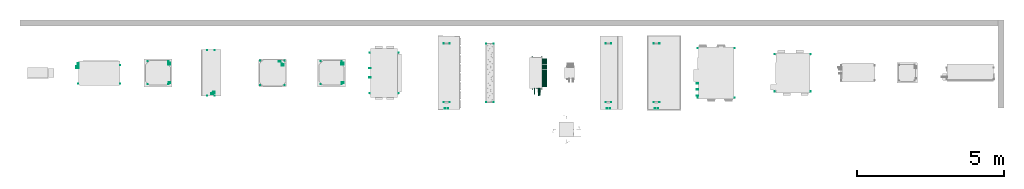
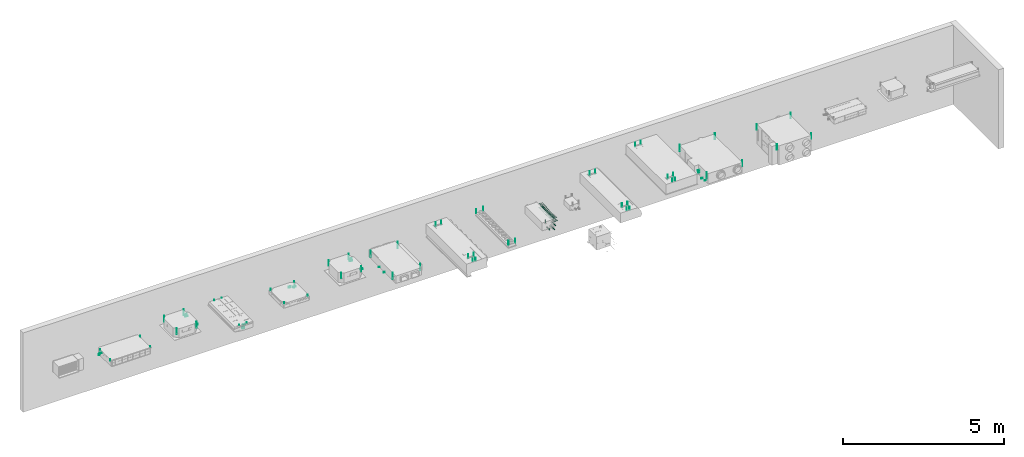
# One storey, part 2 of 5: 12 energy conversion devices, 1 flow fitting.
"""IFC2X3 building model written with IfcOpenShell, lengths in millimetres."""

from ifc_helpers import new_model, entity, si_unit, converted_unit, derived_unit, direction, frame, frame_2d, origin, origin_2d_with_axis, place, context, subcontext, project, spatial, circle, extrude, source, transform, mapped, material, type_object, type_shapes, element, save


model = new_model("IFC2X3")

# Units and contexts
model_context = context("Model", 3, precision=0.01, world=origin(), true_north=direction((6.12303176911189e-17, 1.0)))
body_context = subcontext(model_context, "Body", "Model", "MODEL_VIEW")
ifc_project = project(units=[si_unit("LENGTHUNIT", "METRE", prefix="MILLI"), si_unit("AREAUNIT", "SQUARE_METRE"), si_unit("VOLUMEUNIT", "CUBIC_METRE"), converted_unit("PLANEANGLEUNIT", "DEGREE", entity("IfcRatioMeasure", 0.0174532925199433), si_unit("PLANEANGLEUNIT", "RADIAN"), dimensions=[0, 0, 0, 0, 0, 0, 0]), si_unit("MASSUNIT", "GRAM", prefix="KILO"), derived_unit("MASSDENSITYUNIT", [(si_unit("MASSUNIT", "GRAM", prefix="KILO"), 1), (si_unit("LENGTHUNIT", "METRE"), -3)]), si_unit("TIMEUNIT", "SECOND"), si_unit("FREQUENCYUNIT", "HERTZ"), si_unit("THERMODYNAMICTEMPERATUREUNIT", "DEGREE_CELSIUS"), derived_unit("THERMALTRANSMITTANCEUNIT", [(si_unit("MASSUNIT", "GRAM", prefix="KILO"), 1), (si_unit("THERMODYNAMICTEMPERATUREUNIT", "KELVIN"), -1), (si_unit("TIMEUNIT", "SECOND"), -3)]), derived_unit("VOLUMETRICFLOWRATEUNIT", [(si_unit("LENGTHUNIT", "METRE"), 3), (si_unit("TIMEUNIT", "SECOND"), -1)]), si_unit("ELECTRICCURRENTUNIT", "AMPERE"), si_unit("ELECTRICVOLTAGEUNIT", "VOLT"), si_unit("POWERUNIT", "WATT"), si_unit("FORCEUNIT", "NEWTON", prefix="KILO"), si_unit("ILLUMINANCEUNIT", "LUX"), si_unit("LUMINOUSFLUXUNIT", "LUMEN"), si_unit("LUMINOUSINTENSITYUNIT", "CANDELA"), derived_unit("USERDEFINED", [(si_unit("MASSUNIT", "GRAM", prefix="KILO"), -1), (si_unit("LENGTHUNIT", "METRE"), -2), (si_unit("TIMEUNIT", "SECOND"), 3), (si_unit("LUMINOUSFLUXUNIT", "LUMEN"), 1)]), derived_unit("LINEARVELOCITYUNIT", [(si_unit("LENGTHUNIT", "METRE"), 1), (si_unit("TIMEUNIT", "SECOND"), -1)]), si_unit("PRESSUREUNIT", "PASCAL"), derived_unit("USERDEFINED", [(si_unit("LENGTHUNIT", "METRE"), -2), (si_unit("MASSUNIT", "GRAM", prefix="KILO"), 1), (si_unit("TIMEUNIT", "SECOND"), -2)])], contexts=[model_context])

# Site, building, storey
site_placement = place(None, origin())
site = spatial("IfcSite", under=ifc_project, at=site_placement, Name="Default", CompositionType="ELEMENT")
building_placement = place(site_placement, origin())
building = spatial("IfcBuilding", under=site, at=building_placement, CompositionType="ELEMENT")
storey_placement = place(building_placement, origin())
storey = spatial("IfcBuildingStorey", under=building, at=storey_placement, Name="Level 1", CompositionType="ELEMENT", Elevation=0.0)

# Energy conversion devices
ifc_material_1 = material(Name="RSen_x_rgb 188 188 190 T00 gray_gen")
unitary_equipment_type_1 = type_object("IfcUnitaryEquipmentType", Name="cyvl250dk250csc - large - grey_daikin_lxwxh 2500x1105x370 mm", PredefinedType="AIRHANDLER", material=ifc_material_1)
shared_shape_1 = source(origin(), body_context, "Body", "SweptSolid", [
    extrude(circle(Radius=4.76, at=origin_2d_with_axis()), frame((2213.09789016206, 155.595273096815, 52.0174794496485), z_axis=(1.74532925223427e-05, 0.0, 1.0), x_axis=(0.0, -1.0, 0.0)), (0.0, 0.0, 1.0), 97.999999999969),
    extrude(circle(Radius=11.0, at=origin_2d_with_axis()), frame((2213.09789002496, 55.5952730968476, 52.0174794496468), z_axis=(1.74532925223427e-05, 0.0, 1.0), x_axis=(0.0, -1.0, 0.0)), (0.0, 0.0, 1.0), 97.999999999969),
    extrude(circle(Radius=1.5, at=origin_2d_with_axis()), frame((2003.09527193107, 200.095273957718, 2.61799451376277e-05)), (0.0, 0.0, 1.0), 150.0),
    extrude(circle(Radius=1.5, at=origin_2d_with_axis()), frame((3.09527223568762, 200.09527223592, 0.0349327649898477)), (0.0, 0.0, 1.0), 150.0),
    extrude(circle(Radius=1.5, at=origin_2d_with_axis()), frame((2003.09527210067, 3.095273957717, 2.61799389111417e-05)), (0.0, 0.0, 1.0), 150.0),
    extrude(circle(Radius=1.5, at=origin_2d_with_axis()), frame((3.09527240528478, 3.0952722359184, 0.0349327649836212)), (0.0, 0.0, 1.0), 150.0),
])
type_shapes(unitary_equipment_type_1, [shared_shape_1])
energy_conversion_device_1_placement = place(storey_placement, frame((13357.4383112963, -14716.9171137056, 3020.01747944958), z_axis=(0.0, 0.0, -1.0), x_axis=(0.0, -1.0, 0.0)))
element("IfcEnergyConversionDevice", 1, at=energy_conversion_device_1_placement, inside=storey, type_object=unitary_equipment_type_1, material=ifc_material_1, Name="RSen_57_ME_FB_air curtain_daikin:cyvl250dk250csc - large - grey_daikin_lxwxh 2500x1105x370 mm", ObjectType="cyvl250dk250csc - large - grey_daikin_lxwxh 2500x1105x370 mm", context=body_context, shape_type="MappedRepresentation", body=[
    mapped(shared_shape_1, transform((0.0, 0.0, 0.0), scale=1.0)),
])
unitary_equipment_type_2 = type_object("IfcUnitaryEquipmentType", Name="cyvl250dk250fsc - large - grey_daikin_lxwxh 2500x774x370 mm", PredefinedType="AIRHANDLER", material=ifc_material_1)
shared_shape_2 = source(origin(), body_context, "Body", "SweptSolid", [
    extrude(circle(Radius=4.76, at=origin_2d_with_axis()), frame((1210.0, 141.499999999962, 52.0), z_axis=(1.74532925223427e-05, 0.0, 1.0), x_axis=(0.0, -1.0, 0.0)), (0.0, 0.0, 1.0), 97.999999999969),
    extrude(circle(Radius=11.0, at=origin_2d_with_axis()), frame((1210.0, 41.4999999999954, 52.0), z_axis=(1.74532925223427e-05, 0.0, 1.0), x_axis=(0.0, -1.0, 0.0)), (0.0, 0.0, 1.0), 97.999999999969),
    extrude(circle(Radius=1.5, at=origin_2d_with_axis()), frame((999.997381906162, 187.000000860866, -0.0174532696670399)), (0.0, 0.0, 1.0), 150.0),
    extrude(circle(Radius=1.5, at=origin_2d_with_axis()), frame((-1000.00261778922, 186.999999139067, 0.017453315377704)), (0.0, 0.0, 1.0), 150.0),
    extrude(circle(Radius=1.5, at=frame_2d((-3.64156075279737e-24, -4.22994972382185e-15), x_axis=(1.0, 0.0))), frame((999.99738207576, -9.99999913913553, -0.0174532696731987)), (0.0, 0.0, 1.0), 150.0),
    extrude(circle(Radius=1.5, at=frame_2d((-3.64156075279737e-24, -4.22994972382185e-15), x_axis=(1.0, 0.0))), frame((-1000.00261761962, -10.0000008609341, 0.0174533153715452)), (0.0, 0.0, 1.0), 150.0),
])
type_shapes(unitary_equipment_type_2, [shared_shape_2])
energy_conversion_device_2_placement = place(storey_placement, frame((11708.8430381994, -15720.0150037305, 2500.0), z_axis=(0.0, 0.0, -1.0), x_axis=(0.0, -1.0, 0.0)))
element("IfcEnergyConversionDevice", 2, at=energy_conversion_device_2_placement, inside=storey, type_object=unitary_equipment_type_2, material=ifc_material_1, Name="RSen_57_ME_FB_air curtain_daikin:cyvl250dk250fsc - large - grey_daikin_lxwxh 2500x774x370 mm", ObjectType="cyvl250dk250fsc - large - grey_daikin_lxwxh 2500x774x370 mm", context=body_context, shape_type="MappedRepresentation", body=[
    mapped(shared_shape_2, transform((0.0, 0.0, 0.0), scale=1.0)),
])

# Flow fitting
ifc_material_2 = material(Name="RSen_x_rgb 255 255 255 T00 pure white_gen")
pipe_fitting_type = type_object("IfcPipeFittingType", Name="bs16q14av1b - multi branch selector_daikin_lxwxh 1060x430x298 mm", PredefinedType="JUNCTION", material=ifc_material_2)
shared_shape_3 = source(origin(), body_context, "Body", "SweptSolid", [
    extrude(circle(Radius=7.95, at=origin_2d_with_axis()), frame((460.0, -374.0, 268.0), z_axis=(0.0, 1.0, 0.0), x_axis=(0.0, 0.0, -1.0)), (0.0, 0.0, 1.0), 158.999999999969),
    extrude(circle(Radius=7.95, at=origin_2d_with_axis()), frame((400.0, -374.0, 268.0), z_axis=(0.0, 1.0, 0.0), x_axis=(0.0, 0.0, -1.0)), (0.0, 0.0, 1.0), 158.999999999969),
    extrude(circle(Radius=7.95, at=origin_2d_with_axis()), frame((340.0, -374.0, 268.0), z_axis=(0.0, 1.0, 0.0), x_axis=(0.0, 0.0, -1.0)), (0.0, 0.0, 1.0), 158.999999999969),
    extrude(circle(Radius=7.95, at=origin_2d_with_axis()), frame((280.0, -374.0, 268.0), z_axis=(0.0, 1.0, 0.0), x_axis=(0.0, 0.0, -1.0)), (0.0, 0.0, 1.0), 158.999999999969),
    extrude(circle(Radius=7.95, at=origin_2d_with_axis()), frame((220.0, -374.0, 268.0), z_axis=(0.0, 1.0, 0.0), x_axis=(0.0, 0.0, -1.0)), (0.0, 0.0, 1.0), 158.999999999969),
    extrude(circle(Radius=7.95, at=origin_2d_with_axis()), frame((160.0, -374.0, 268.0), z_axis=(0.0, 1.0, 0.0), x_axis=(0.0, 0.0, -1.0)), (0.0, 0.0, 1.0), 158.999999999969),
    extrude(circle(Radius=7.95, at=frame_2d((-2.63067735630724e-29, -1.69197988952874e-14), x_axis=(1.0, 0.0))), frame((100.0, -374.0, 268.0), z_axis=(0.0, 1.0, 0.0), x_axis=(0.0, 0.0, -1.0)), (0.0, 0.0, 1.0), 158.999999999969),
    extrude(circle(Radius=7.95, at=frame_2d((-2.63067735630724e-29, -1.69197988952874e-14), x_axis=(1.0, 0.0))), frame((40.0, -374.0, 268.0), z_axis=(0.0, 1.0, 0.0), x_axis=(0.0, 0.0, -1.0)), (0.0, 0.0, 1.0), 158.999999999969),
    extrude(circle(Radius=7.95, at=frame_2d((-1.97300801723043e-29, -1.26898491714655e-14), x_axis=(1.0, 0.0))), frame((-20.0, -374.0, 268.0), z_axis=(0.0, 1.0, 0.0), x_axis=(0.0, 0.0, -1.0)), (0.0, 0.0, 1.0), 158.999999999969),
    extrude(circle(Radius=7.95, at=frame_2d((-2.63067735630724e-29, -1.69197988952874e-14), x_axis=(1.0, 0.0))), frame((-80.0, -374.0, 268.0), z_axis=(0.0, 1.0, 0.0), x_axis=(0.0, 0.0, -1.0)), (0.0, 0.0, 1.0), 158.999999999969),
    extrude(circle(Radius=7.95, at=frame_2d((-2.63067735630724e-29, -1.69197988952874e-14), x_axis=(1.0, 0.0))), frame((-140.0, -374.0, 268.0), z_axis=(0.0, 1.0, 0.0), x_axis=(0.0, 0.0, -1.0)), (0.0, 0.0, 1.0), 158.999999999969),
    extrude(circle(Radius=7.95, at=origin_2d_with_axis()), frame((-200.0, -374.0, 268.0), z_axis=(0.0, 1.0, 0.0), x_axis=(0.0, 0.0, -1.0)), (0.0, 0.0, 1.0), 158.999999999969),
    extrude(circle(Radius=7.95, at=origin_2d_with_axis()), frame((-260.0, -374.0, 268.0), z_axis=(0.0, 1.0, 0.0), x_axis=(0.0, 0.0, -1.0)), (0.0, 0.0, 1.0), 158.999999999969),
    extrude(circle(Radius=7.95, at=origin_2d_with_axis()), frame((-320.0, -374.0, 268.0), z_axis=(0.0, 1.0, 0.0), x_axis=(0.0, 0.0, -1.0)), (0.0, 0.0, 1.0), 158.999999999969),
    extrude(circle(Radius=7.95, at=origin_2d_with_axis()), frame((-380.0, -374.0, 268.0), z_axis=(0.0, 1.0, 0.0), x_axis=(0.0, 0.0, -1.0)), (0.0, 0.0, 1.0), 158.999999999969),
    extrude(circle(Radius=4.75, at=origin_2d_with_axis()), frame((430.0, -374.0, 163.0), z_axis=(0.0, 1.0, 0.0), x_axis=(0.0, 0.0, -1.0)), (0.0, 0.0, 1.0), 158.999999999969),
    extrude(circle(Radius=4.75, at=origin_2d_with_axis()), frame((370.0, -374.0, 163.0), z_axis=(0.0, 1.0, 0.0), x_axis=(0.0, 0.0, -1.0)), (0.0, 0.0, 1.0), 158.999999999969),
    extrude(circle(Radius=4.75, at=origin_2d_with_axis()), frame((310.0, -374.0, 163.0), z_axis=(0.0, 1.0, 0.0), x_axis=(0.0, 0.0, -1.0)), (0.0, 0.0, 1.0), 158.999999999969),
    extrude(circle(Radius=4.75, at=origin_2d_with_axis()), frame((250.0, -374.0, 163.0), z_axis=(0.0, 1.0, 0.0), x_axis=(0.0, 0.0, -1.0)), (0.0, 0.0, 1.0), 158.999999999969),
    extrude(circle(Radius=4.75, at=origin_2d_with_axis()), frame((190.0, -374.0, 163.0), z_axis=(0.0, 1.0, 0.0), x_axis=(0.0, 0.0, -1.0)), (0.0, 0.0, 1.0), 158.999999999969),
    extrude(circle(Radius=4.75, at=origin_2d_with_axis()), frame((130.0, -374.0, 163.0), z_axis=(0.0, 1.0, 0.0), x_axis=(0.0, 0.0, -1.0)), (0.0, 0.0, 1.0), 158.999999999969),
    extrude(circle(Radius=4.75, at=frame_2d((-1.31533867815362e-29, -8.45989944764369e-15), x_axis=(1.0, 0.0))), frame((70.0, -374.0, 163.0), z_axis=(0.0, 1.0, 0.0), x_axis=(0.0, 0.0, -1.0)), (0.0, 0.0, 1.0), 158.999999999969),
    extrude(circle(Radius=4.75, at=frame_2d((-9.86504008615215e-30, -6.34492458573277e-15), x_axis=(1.0, 0.0))), frame((10.0, -374.0, 163.0), z_axis=(0.0, 1.0, 0.0), x_axis=(0.0, 0.0, -1.0)), (0.0, 0.0, 1.0), 158.999999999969),
    extrude(circle(Radius=4.75, at=frame_2d((-1.31533867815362e-29, -8.45989944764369e-15), x_axis=(1.0, 0.0))), frame((-50.0, -374.0, 163.0), z_axis=(0.0, 1.0, 0.0), x_axis=(0.0, 0.0, -1.0)), (0.0, 0.0, 1.0), 158.999999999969),
    extrude(circle(Radius=4.75, at=origin_2d_with_axis()), frame((-110.0, -374.0, 163.0), z_axis=(0.0, 1.0, 0.0), x_axis=(0.0, 0.0, -1.0)), (0.0, 0.0, 1.0), 158.999999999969),
    extrude(circle(Radius=4.75, at=origin_2d_with_axis()), frame((-170.0, -374.0, 163.0), z_axis=(0.0, 1.0, 0.0), x_axis=(0.0, 0.0, -1.0)), (0.0, 0.0, 1.0), 158.999999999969),
    extrude(circle(Radius=4.75, at=origin_2d_with_axis()), frame((-230.0, -374.0, 163.0), z_axis=(0.0, 1.0, 0.0), x_axis=(0.0, 0.0, -1.0)), (0.0, 0.0, 1.0), 158.999999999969),
    extrude(circle(Radius=4.75, at=origin_2d_with_axis()), frame((-290.0, -374.0, 163.0), z_axis=(0.0, 1.0, 0.0), x_axis=(0.0, 0.0, -1.0)), (0.0, 0.0, 1.0), 158.999999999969),
    extrude(circle(Radius=4.75, at=origin_2d_with_axis()), frame((-350.0, -374.0, 163.0), z_axis=(0.0, 1.0, 0.0), x_axis=(0.0, 0.0, -1.0)), (0.0, 0.0, 1.0), 158.999999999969),
    extrude(circle(Radius=4.75, at=origin_2d_with_axis()), frame((-410.0, -374.0, 163.0), z_axis=(0.0, 1.0, 0.0), x_axis=(0.0, 0.0, -1.0)), (0.0, 0.0, 1.0), 158.999999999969),
    extrude(circle(Radius=7.95, at=origin_2d_with_axis()), frame((-440.0, -374.0, 268.0), z_axis=(0.0, 1.0, 0.0), x_axis=(0.0, 0.0, -1.0)), (0.0, 0.0, 1.0), 158.999999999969),
    extrude(circle(Radius=4.75, at=origin_2d_with_axis()), frame((-470.0, -374.0, 163.0), z_axis=(0.0, 1.0, 0.0), x_axis=(0.0, 0.0, -1.0)), (0.0, 0.0, 1.0), 158.999999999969),
    extrude(circle(Radius=13.0, at=frame_2d((-3.07556291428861e-28, -2.11497486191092e-14), x_axis=(1.0, 0.0))), frame((530.0, -35.0, 399.0), z_axis=(1.0, 0.0, 0.0), x_axis=(0.0, 0.0, -1.0)), (0.0, 0.0, 1.0), 17.999999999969),
    extrude(circle(Radius=9.55, at=frame_2d((-1.23022516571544e-28, -8.45989944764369e-15), x_axis=(1.0, 0.0))), frame((530.0, 47.0, 332.0), z_axis=(1.0, 0.0, 0.0), x_axis=(0.0, 0.0, -1.0)), (0.0, 0.0, 1.0), 189.999999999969),
    extrude(circle(Radius=17.45, at=frame_2d((-4.92090066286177e-28, -3.38395977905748e-14), x_axis=(1.0, 0.0))), frame((530.0, -92.0, 325.0), z_axis=(1.0, 0.0, 0.0), x_axis=(0.0, 0.0, -1.0)), (0.0, 0.0, 1.0), 243.999999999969),
    extrude(circle(Radius=14.3, at=frame_2d((-2.46045033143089e-28, -1.69197988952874e-14), x_axis=(1.0, 0.0))), frame((530.0, -136.0, 208.0), z_axis=(1.0, 0.0, 0.0), x_axis=(0.0, 0.0, -1.0)), (0.0, 0.0, 1.0), 223.999999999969),
    extrude(circle(Radius=1.5, at=frame_2d((-1.4566239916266e-23, -1.69197988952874e-14), x_axis=(1.0, 0.0))), frame((549.997905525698, 117.80000047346, -0.00959929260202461)), (0.0, 0.0, 1.0), 140.0),
    extrude(circle(Radius=1.5, at=frame_2d((-1.4566239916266e-23, -1.69197988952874e-14), x_axis=(1.0, 0.0))), frame((-550.002094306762, 117.799999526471, 0.00959932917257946)), (0.0, 0.0, 1.0), 140.0),
    extrude(circle(Radius=1.5, at=origin_2d_with_axis()), frame((549.997905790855, -190.199999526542, -0.00959929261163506)), (0.0, 0.0, 1.0), 140.0),
    extrude(circle(Radius=1.5, at=origin_2d_with_axis()), frame((-550.002094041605, -190.200000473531, 0.00959932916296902)), (0.0, 0.0, 1.0), 140.0),
])
type_shapes(pipe_fitting_type, [shared_shape_3])
flow_fitting_placement = place(storey_placement, frame((9150.12831420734, -15720.0150037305, 2500.0), z_axis=(0.0, 0.0, -1.0), x_axis=(0.0, -1.0, 0.0)))
element("IfcFlowFitting", 3, at=flow_fitting_placement, inside=storey, type_object=pipe_fitting_type, material=ifc_material_2, Name="RSen_55_ME_FB_multi branch - bs box_daikin:bs16q14av1b - multi branch selector_daikin_lxwxh 1060x430x298 mm", ObjectType="bs16q14av1b - multi branch selector_daikin_lxwxh 1060x430x298 mm", context=body_context, shape_type="MappedRepresentation", body=[
    mapped(shared_shape_3, transform((0.0, 0.0, 0.0), scale=1.0)),
])

# Energy conversion devices
unitary_equipment_type_3 = type_object("IfcUnitaryEquipmentType", Name="cyqs200dk100rbn - small - white_daikin_lxwxh 2048x308x101,5 mm", PredefinedType="AIRHANDLER")
shared_shape_4 = source(origin(), body_context, "Body", "SweptSolid", [
    extrude(circle(Radius=1.5, at=origin_2d_with_axis()), frame((993.997381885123, 124.000000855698, -0.017348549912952)), (0.0, 0.0, 1.0), 150.0),
    extrude(circle(Radius=1.5, at=origin_2d_with_axis()), frame((-994.002617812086, 123.99999914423, 0.017348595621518)), (0.0, 0.0, 1.0), 150.0),
    extrude(circle(Radius=1.5, at=origin_2d_with_axis()), frame((993.997382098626, -123.999999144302, -0.0173485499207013)), (0.0, 0.0, 1.0), 150.0),
    extrude(circle(Radius=1.5, at=origin_2d_with_axis()), frame((-994.002617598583, -124.00000085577, 0.0173485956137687)), (0.0, 0.0, 1.0), 150.0),
])
type_shapes(unitary_equipment_type_3, [shared_shape_4])
energy_conversion_device_3_placement = place(storey_placement, frame((7583.37836255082, -15720.0150037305, 2500.0), z_axis=(0.0, 0.0, -1.0), x_axis=(0.0, -1.0, 0.0)))
element("IfcEnergyConversionDevice", 4, at=energy_conversion_device_3_placement, inside=storey, type_object=unitary_equipment_type_3, Name="RSen_57_AIR_FB_air curtain - suction grid - 10 connections_daikin:cyqs200dk100rbn - small - white_daikin_lxwxh 2048x308x101,5 mm", ObjectType="cyqs200dk100rbn - small - white_daikin_lxwxh 2048x308x101,5 mm", context=body_context, shape_type="MappedRepresentation", body=[
    mapped(shared_shape_4, transform((0.0, 0.0, 0.0), scale=1.0)),
])
unitary_equipment_type_4 = type_object("IfcUnitaryEquipmentType", Name="cyql250dk250rbn - large - white_daikin_lxwxh 2548x745x495 mm", PredefinedType="AIRHANDLER", material=ifc_material_2)
shared_shape_5 = source(origin(), body_context, "Body", "SweptSolid", [
    extrude(circle(Radius=4.76, at=origin_2d_with_axis()), frame((1212.0, 127.0, 52.0), z_axis=(1.74532925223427e-05, 0.0, 1.0), x_axis=(0.0, -1.0, 0.0)), (0.0, 0.0, 1.0), 97.999999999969),
    extrude(circle(Radius=11.0, at=origin_2d_with_axis()), frame((1212.0, 27.0, 52.0), z_axis=(1.74532925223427e-05, 0.0, 1.0), x_axis=(0.0, -1.0, 0.0)), (0.0, 0.0, 1.0), 97.999999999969),
    extrude(circle(Radius=1.5, at=origin_2d_with_axis()), frame((999.997381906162, 171.600000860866, -0.0174532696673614)), (0.0, 0.0, 1.0), 150.0),
    extrude(circle(Radius=1.5, at=origin_2d_with_axis()), frame((-1000.00261778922, 171.599999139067, 0.0174533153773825)), (0.0, 0.0, 1.0), 150.0),
    extrude(circle(Radius=1.5, at=frame_2d((-3.64156075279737e-24, -4.22994972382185e-15), x_axis=(1.0, 0.0))), frame((999.99738207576, -25.3999991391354, -0.0174532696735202)), (0.0, 0.0, 1.0), 150.0),
    extrude(circle(Radius=1.5, at=frame_2d((-3.64156075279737e-24, -4.22994972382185e-15), x_axis=(1.0, 0.0))), frame((-1000.00261761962, -25.400000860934, 0.0174533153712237)), (0.0, 0.0, 1.0), 150.0),
])
type_shapes(unitary_equipment_type_4, [shared_shape_5])
energy_conversion_device_4_placement = place(storey_placement, frame((6183.37836255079, -15720.0150037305, 2500.0), z_axis=(0.0, 0.0, -1.0), x_axis=(0.0, -1.0, 0.0)))
element("IfcEnergyConversionDevice", 5, at=energy_conversion_device_4_placement, inside=storey, type_object=unitary_equipment_type_4, material=ifc_material_2, Name="RSen_57_ME_FB_air curtain - 8 connections_daikin:cyql250dk250rbn - large - white_daikin_lxwxh 2548x745x495 mm", ObjectType="cyql250dk250rbn - large - white_daikin_lxwxh 2548x745x495 mm", context=body_context, shape_type="MappedRepresentation", body=[
    mapped(shared_shape_5, transform((0.0, 0.0, 0.0), scale=1.0)),
])
unitary_equipment_type_5 = type_object("IfcUnitaryEquipmentType", Name="vkm100gbmv1 - heat reclaim ventilation, humidification and air processing_daikin_lxwxh 1942x1214x387 mm", PredefinedType="AIRHANDLER", material=ifc_material_2)
shared_shape_6 = source(origin(), body_context, "Body", "SweptSolid", [
    extrude(circle(Radius=3.2, at=origin_2d_with_axis()), frame((780.0, 607.0, 343.0), z_axis=(0.0, 1.0, 0.0), x_axis=(-1.0, 0.0, 0.0)), (0.0, 0.0, 1.0), 59.999999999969),
    extrude(circle(Radius=9.55, at=frame_2d((1.06551165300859e-28, -6.76791955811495e-14), x_axis=(1.0, 0.0))), frame((560.0, 607.0, 408.500000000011), z_axis=(0.0, 1.0, 0.0), x_axis=(0.0, 0.0, -1.0)), (0.0, 0.0, 1.0), 59.999999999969),
    extrude(circle(Radius=3.175, at=origin_2d_with_axis()), frame((367.0, 607.0, 303.0), z_axis=(0.0, 1.0, 0.0), x_axis=(0.0, 0.0, -1.0)), (0.0, 0.0, 1.0), 59.999999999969),
    extrude(circle(Radius=6.35, at=origin_2d_with_axis()), frame((357.0, 607.0, 227.0), z_axis=(0.0, 1.0, 0.0), x_axis=(0.0, 0.0, -1.0)), (0.0, 0.0, 1.0), 59.999999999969),
    extrude(circle(Radius=1.5, at=origin_2d_with_axis()), frame((843.999126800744, 631.0, -0.0147305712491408)), (0.0, 0.0, 1.0), 230.0),
    extrude(circle(Radius=1.5, at=origin_2d_with_axis()), frame((-844.000872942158, 631.0, 0.0147305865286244)), (0.0, 0.0, 1.0), 230.0),
    extrude(circle(Radius=1.5, at=origin_2d_with_axis()), frame((843.999127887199, -631.0, -0.0147305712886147)), (0.0, 0.0, 1.0), 230.0),
    extrude(circle(Radius=1.5, at=origin_2d_with_axis()), frame((-844.000871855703, -631.0, 0.0147305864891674)), (0.0, 0.0, 1.0), 230.0),
])
type_shapes(unitary_equipment_type_5, [shared_shape_6])
energy_conversion_device_5_placement = place(storey_placement, frame((15283.3783625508, -15720.0150037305, 2500.0), z_axis=(0.0, 0.0, -1.0), x_axis=(0.0, -1.0, 0.0)))
element("IfcEnergyConversionDevice", 6, at=energy_conversion_device_5_placement, inside=storey, type_object=unitary_equipment_type_5, material=ifc_material_2, Name="RSen_57_ME_FB_ventilation - heat reclaim, humidification and air processing_daikin:vkm100gbmv1 - heat reclaim ventilation, humidification and air processing_daikin_lxwxh 1942x1214x387 mm", ObjectType="vkm100gbmv1 - heat reclaim ventilation, humidification and air processing_daikin_lxwxh 1942x1214x387 mm", context=body_context, shape_type="MappedRepresentation", body=[
    mapped(shared_shape_6, transform((0.0, 0.0, 0.0), scale=1.0)),
])
unitary_equipment_type_6 = type_object("IfcUnitaryEquipmentType", Name="vam1500j8veb - heat reclaim ventilation_daikin_lxwxh 1549x1342x731 mm", PredefinedType="AIRHANDLER")
shared_shape_7 = source(origin(), body_context, "Body", "SweptSolid", [
    extrude(circle(Radius=1.5, at=origin_2d_with_axis()), frame((632.999126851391, 599.500000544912, -0.0110479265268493)), (0.0, 0.0, 1.0), 210.0),
    extrude(circle(Radius=1.5, at=origin_2d_with_axis()), frame((-633.000872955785, 599.499999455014, 0.0110479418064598)), (0.0, 0.0, 1.0), 210.0),
    extrude(circle(Radius=1.5, at=origin_2d_with_axis()), frame((632.999127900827, -619.499999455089, -0.0110479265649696)), (0.0, 0.0, 1.0), 210.0),
    extrude(circle(Radius=1.5, at=origin_2d_with_axis()), frame((-633.00087190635, -619.500000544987, 0.0110479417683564)), (0.0, 0.0, 1.0), 210.0),
])
type_shapes(unitary_equipment_type_6, [shared_shape_7])
energy_conversion_device_6_placement = place(storey_placement, frame((17883.3783625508, -15720.0150037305, 2500.0), z_axis=(0.0, 0.0, -1.0), x_axis=(0.0, -1.0, 0.0)))
element("IfcEnergyConversionDevice", 7, at=energy_conversion_device_6_placement, inside=storey, type_object=unitary_equipment_type_6, Name="RSen_57_ME_FB_ventilation - heat reclaim - 8 ducts_daikin:vam1500j8veb - heat reclaim ventilation_daikin_lxwxh 1549x1342x731 mm", ObjectType="vam1500j8veb - heat reclaim ventilation_daikin_lxwxh 1549x1342x731 mm", context=body_context, shape_type="MappedRepresentation", body=[
    mapped(shared_shape_7, transform((0.0, 0.0, 0.0), scale=1.0)),
])
unitary_equipment_type_7 = type_object("IfcUnitaryEquipmentType", Name="alb02rbsnadbt00 - air handling unit - right_daikin_lxwxh 1820x920x292 mm", PredefinedType="AIRHANDLER", material=ifc_material_2)
shared_shape_8 = source(origin(), body_context, "Body", "SweptSolid", [
    extrude(circle(Radius=4.0, at=frame_2d((5.94654117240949e-29, -3.38395977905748e-14), x_axis=(1.0, 0.0))), frame((157.500000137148, 460.0, 304.0), z_axis=(0.0, 1.0, 0.0), x_axis=(0.0, 0.0, -1.0)), (0.0, 0.0, 1.0), 41.999999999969),
    extrude(circle(Radius=4.0, at=origin_2d_with_axis()), frame((-157.499999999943, 460.0, 304.0), z_axis=(0.0, 1.0, 0.0), x_axis=(0.0, 0.0, -1.0)), (0.0, 0.0, 1.0), 41.999999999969),
    extrude(circle(Radius=1.5, at=origin_2d_with_axis()), frame((689.99912694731, 488.0, -0.0120427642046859)), (0.0, 0.0, 1.0), 246.0),
    extrude(circle(Radius=1.5, at=origin_2d_with_axis()), frame((-690.000872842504, 488.0, 0.0120427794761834)), (0.0, 0.0, 1.0), 246.0),
    extrude(circle(Radius=1.5, at=origin_2d_with_axis()), frame((689.999127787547, -488.0, -0.0120427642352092)), (0.0, 0.0, 1.0), 246.0),
    extrude(circle(Radius=1.5, at=origin_2d_with_axis()), frame((-690.000872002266, -488.0, 0.01204277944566)), (0.0, 0.0, 1.0), 246.0),
])
type_shapes(unitary_equipment_type_7, [shared_shape_8])
energy_conversion_device_7_placement = place(storey_placement, frame((3983.37836255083, -15720.0150037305, 2500.0), z_axis=(0.0, 0.0, -1.0), x_axis=(0.0, -1.0, 0.0)))
element("IfcEnergyConversionDevice", 8, at=energy_conversion_device_7_placement, inside=storey, type_object=unitary_equipment_type_7, material=ifc_material_2, Name="RSen_57_ME_FB_air handling unit - modular - l_daikin:alb02rbsnadbt00 - air handling unit - right_daikin_lxwxh 1820x920x292 mm", ObjectType="alb02rbsnadbt00 - air handling unit - right_daikin_lxwxh 1820x920x292 mm", context=body_context, shape_type="MappedRepresentation", body=[
    mapped(shared_shape_8, transform((0.0, 0.0, 0.0), scale=1.0)),
])
unitary_equipment_type_8 = type_object("IfcUnitaryEquipmentType", Name="fcahg71gveb - high cop round flow cassette - auto-cleaning panel_daikin_lxwxh 950x950x418 mm", PredefinedType="AIRCONDITIONINGUNIT", material=ifc_material_2)
shared_shape_9 = source(origin(), body_context, "Body", "SweptSolid", [
    extrude(circle(Radius=16.0, at=frame_2d((-2.10454188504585e-28, -1.35358391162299e-13), x_axis=(1.0, 0.0))), frame((733.095621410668, 0.0, 143.006832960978), z_axis=(0.0, 1.0, 0.0), x_axis=(0.0, 0.0, -1.0)), (0.0, 0.0, 1.0), 59.999999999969),
    extrude(circle(Radius=4.76, at=origin_2d_with_axis()), frame((113.095621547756, 0.0, 208.006832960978), z_axis=(0.0, 1.0, 0.0), x_axis=(0.0, 0.0, -1.0)), (0.0, 0.0, 1.0), 79.9999999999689),
    extrude(circle(Radius=7.95, at=origin_2d_with_axis()), frame((63.0956214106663, 0.0, 168.006832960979), z_axis=(0.0, 1.0, 0.0), x_axis=(0.0, 0.0, -1.0)), (0.0, 0.0, 1.0), 79.999999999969),
    extrude(circle(Radius=1.5, at=origin_2d_with_axis()), frame((783.095272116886, 775.0, 2.61799609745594e-05)), (0.0, 0.0, 1.0), 210.0),
    extrude(circle(Radius=1.5, at=origin_2d_with_axis()), frame((3.09527223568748, 775.0, 0.0136397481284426)), (0.0, 0.0, 1.0), 210.0),
    extrude(circle(Radius=1.5, at=origin_2d_with_axis()), frame((783.095272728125, 65.00000033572, 2.61799387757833e-05)), (0.0, 0.0, 1.0), 210.0),
    extrude(circle(Radius=1.5, at=origin_2d_with_axis()), frame((3.09527284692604, 64.9999996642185, 0.0136397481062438)), (0.0, 0.0, 1.0), 210.0),
])
type_shapes(unitary_equipment_type_8, [shared_shape_9])
energy_conversion_device_8_placement = place(storey_placement, frame((2603.37836255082, -15326.9193823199, 2898.00683296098), z_axis=(0.0, 0.0, -1.0), x_axis=(0.0, -1.0, 0.0)))
element("IfcEnergyConversionDevice", 9, at=energy_conversion_device_8_placement, inside=storey, type_object=unitary_equipment_type_8, material=ifc_material_2, Name="RSen_55_ME_FB_indoor unit - sky air - cassette-wall-floor_daikin:fcahg71gveb - high cop round flow cassette - auto-cleaning panel_daikin_lxwxh 950x950x418 mm", ObjectType="fcahg71gveb - high cop round flow cassette - auto-cleaning panel_daikin_lxwxh 950x950x418 mm", context=body_context, shape_type="MappedRepresentation", body=[
    mapped(shared_shape_9, transform((0.0, 0.0, 0.0), scale=1.0)),
])
unitary_equipment_type_9 = type_object("IfcUnitaryEquipmentType", Name="fua71aveb - 4-way blow ceiling suspended unit_daikin_lxwxh 950x950x198 mm", PredefinedType="AIRCONDITIONINGUNIT", material=ifc_material_2)
shared_shape_10 = source(origin(), body_context, "Body", "SweptSolid", [
    extrude(circle(Radius=16.0, at=frame_2d((-2.0669723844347e-28, -1.35358391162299e-13), x_axis=(1.0, 0.0))), frame((-387.0, -277.0, 120.0), z_axis=(0.0, 1.0, 0.0), x_axis=(0.0, 0.0, -1.0)), (0.0, 0.0, 1.0), 59.999999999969),
    extrude(circle(Radius=4.76, at=frame_2d((-1.2041926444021e-27, -6.76791955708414e-14), x_axis=(1.0, 0.0))), frame((-304.0, -316.0, 88.0), z_axis=(1.0, 1.74532925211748e-05, 0.0), x_axis=(0.0, 0.0, -1.0)), (0.0, 0.0, 1.0), 59.999999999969),
    extrude(circle(Radius=7.95, at=origin_2d_with_axis()), frame((-299.0, -370.0, 57.0), z_axis=(1.0, 1.74532925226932e-05, 0.0), x_axis=(0.0, 0.0, -1.0)), (0.0, 0.0, 1.0), 59.999999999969),
    extrude(circle(Radius=1.5, at=origin_2d_with_axis()), frame((417.499650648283, 417.500000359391, -20.007286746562)), (0.0, 0.0, 1.0), 60.0),
    extrude(circle(Radius=1.5, at=origin_2d_with_axis()), frame((-417.500349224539, 417.49999964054, -19.9927132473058)), (0.0, 0.0, 1.0), 60.0),
    extrude(circle(Radius=1.5, at=origin_2d_with_axis()), frame((417.499651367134, -417.499999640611, -20.0072867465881)), (0.0, 0.0, 1.0), 60.0),
    extrude(circle(Radius=1.5, at=origin_2d_with_axis()), frame((-417.500348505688, -417.500000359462, -19.9927132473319)), (0.0, 0.0, 1.0), 60.0),
])
type_shapes(unitary_equipment_type_9, [shared_shape_10])
energy_conversion_device_9_placement = place(storey_placement, frame((183.378362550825, -15720.0150037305, 2500.0), z_axis=(0.0, 0.0, -1.0), x_axis=(0.0, -1.0, 0.0)))
element("IfcEnergyConversionDevice", 10, at=energy_conversion_device_9_placement, inside=storey, type_object=unitary_equipment_type_9, material=ifc_material_2, Name="RSen_55_ME_FB_indoor unit - sky air - cassette-wall-floor_daikin:fua71aveb - 4-way blow ceiling suspended unit_daikin_lxwxh 950x950x198 mm", ObjectType="fua71aveb - 4-way blow ceiling suspended unit_daikin_lxwxh 950x950x198 mm", context=body_context, shape_type="MappedRepresentation", body=[
    mapped(shared_shape_10, transform((0.0, 0.0, 0.0), scale=1.0)),
])
unitary_equipment_type_10 = type_object("IfcUnitaryEquipmentType", Name="fha140aveb - ceiling suspended unit_daikin_lxwxh 1590x690x235 mm", PredefinedType="AIRCONDITIONINGUNIT", material=ifc_material_2)
shared_shape_11 = source(origin(), body_context, "Body", "SweptSolid", [
    extrude(circle(Radius=13.0, at=frame_2d((-2.19076896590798e-28, -1.35358391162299e-13), x_axis=(1.0, 0.0))), frame((712.0, -77.0, 197.0), z_axis=(0.0, 1.0, 0.0), x_axis=(0.0, 0.0, -1.0)), (0.0, 0.0, 1.0), 59.999999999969),
    extrude(circle(Radius=4.76, at=origin_2d_with_axis()), frame((639.0, -131.0, 131.0), z_axis=(0.0, 1.0, 0.0), x_axis=(0.0, 0.0, -1.0)), (0.0, 0.0, 1.0), 59.999999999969),
    extrude(circle(Radius=7.95, at=origin_2d_with_axis()), frame((690.0, -124.0, 91.0), z_axis=(0.0, 1.0, 0.0), x_axis=(0.0, 0.0, -1.0)), (0.0, 0.0, 1.0), 59.999999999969),
    extrude(circle(Radius=1.5, at=origin_2d_with_axis()), frame((774.999650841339, 130.000000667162, -20.0135262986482)), (0.0, 0.0, 1.0), 20.0),
    extrude(circle(Radius=1.5, at=frame_2d((-1.45662453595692e-23, -1.69197988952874e-14), x_axis=(1.0, 0.0))), frame((-775.000348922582, 129.999999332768, -19.9864736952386)), (0.0, 0.0, 1.0), 20.0),
    extrude(circle(Radius=1.5, at=origin_2d_with_axis()), frame((774.999651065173, -129.999999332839, -20.0135262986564)), (0.0, 0.0, 1.0), 20.0),
    extrude(circle(Radius=1.5, at=frame_2d((-1.45662453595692e-23, -1.69197988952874e-14), x_axis=(1.0, 0.0))), frame((-775.000348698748, -130.000000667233, -19.9864736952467)), (0.0, 0.0, 1.0), 20.0),
])
type_shapes(unitary_equipment_type_10, [shared_shape_11])
energy_conversion_device_10_placement = place(storey_placement, frame((-1916.62163744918, -15720.0150037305, 2500.0), z_axis=(0.0, 0.0, -1.0), x_axis=(0.0, -1.0, 0.0)))
element("IfcEnergyConversionDevice", 11, at=energy_conversion_device_10_placement, inside=storey, type_object=unitary_equipment_type_10, material=ifc_material_2, Name="RSen_55_ME_FB_indoor unit - sky air - cassette-wall-floor_daikin:fha140aveb - ceiling suspended unit_daikin_lxwxh 1590x690x235 mm", ObjectType="fha140aveb - ceiling suspended unit_daikin_lxwxh 1590x690x235 mm", context=body_context, shape_type="MappedRepresentation", body=[
    mapped(shared_shape_11, transform((0.0, 0.0, 0.0), scale=1.0)),
])
unitary_equipment_type_11 = type_object("IfcUnitaryEquipmentType", Name="fxfn112a2veb - round flow cassette - designer panel_daikin_lxwxh 950x950x385 mm", PredefinedType="AIRCONDITIONINGUNIT", material=ifc_material_2)
shared_shape_12 = source(origin(), body_context, "Body", "SweptSolid", [
    extrude(circle(Radius=16.0, at=frame_2d((-2.10454188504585e-28, -1.35358391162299e-13), x_axis=(1.0, 0.0))), frame((733.095621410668, 0.0, 143.006832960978), z_axis=(0.0, 1.0, 0.0), x_axis=(0.0, 0.0, -1.0)), (0.0, 0.0, 1.0), 59.999999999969),
    extrude(circle(Radius=4.76, at=origin_2d_with_axis()), frame((113.095621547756, 0.0, 208.006832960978), z_axis=(0.0, 1.0, 0.0), x_axis=(0.0, 0.0, -1.0)), (0.0, 0.0, 1.0), 79.9999999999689),
    extrude(circle(Radius=7.95, at=origin_2d_with_axis()), frame((63.0956214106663, 0.0, 168.006832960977), z_axis=(0.0, 1.0, 0.0), x_axis=(0.0, 0.0, -1.0)), (0.0, 0.0, 1.0), 79.999999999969),
    extrude(circle(Radius=1.5, at=origin_2d_with_axis()), frame((783.095272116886, 775.0, 2.61799609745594e-05)), (0.0, 0.0, 1.0), 220.0),
    extrude(circle(Radius=1.5, at=origin_2d_with_axis()), frame((3.09527223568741, 775.0, 0.0136397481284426)), (0.0, 0.0, 1.0), 220.0),
    extrude(circle(Radius=1.5, at=origin_2d_with_axis()), frame((783.095272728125, 65.00000033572, 2.61799387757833e-05)), (0.0, 0.0, 1.0), 220.0),
    extrude(circle(Radius=1.5, at=origin_2d_with_axis()), frame((3.09527284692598, 64.9999996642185, 0.0136397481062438)), (0.0, 0.0, 1.0), 220.0),
])
type_shapes(unitary_equipment_type_11, [shared_shape_12])
energy_conversion_device_11_placement = place(storey_placement, frame((-3296.62163744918, -15326.9193823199, 2860.006832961), z_axis=(0.0, 0.0, -1.0), x_axis=(0.0, -1.0, 0.0)))
element("IfcEnergyConversionDevice", 12, at=energy_conversion_device_11_placement, inside=storey, type_object=unitary_equipment_type_11, material=ifc_material_2, Name="RSen_55_ME_FB_indoor unit - refrigeration - cassette - fresh air intake_daikin:fxfn112a2veb - round flow cassette - designer panel_daikin_lxwxh 950x950x385 mm", ObjectType="fxfn112a2veb - round flow cassette - designer panel_daikin_lxwxh 950x950x385 mm", context=body_context, shape_type="MappedRepresentation", body=[
    mapped(shared_shape_12, transform((0.0, 0.0, 0.0), scale=1.0)),
])
unitary_equipment_type_12 = type_object("IfcUnitaryEquipmentType", Name="fxsn112a2veb - concealed ceiling unit_daikin_lxwxh 800x1400x245 mm", PredefinedType="AIRCONDITIONINGUNIT", material=ifc_material_2)
shared_shape_13 = source(origin(), body_context, "Body", "SweptSolid", [
    extrude(circle(Radius=13.0, at=frame_2d((1.18930823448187e-28, -6.76791955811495e-14), x_axis=(1.0, 0.0))), frame((-309.399999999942, 700.0, 227.0), z_axis=(0.0, 1.0, 0.0), x_axis=(0.0, 0.0, -1.0)), (0.0, 0.0, 1.0), 31.999999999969),
    extrude(circle(Radius=4.76, at=frame_2d((5.63704971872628e-29, -3.38395977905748e-14), x_axis=(1.0, 0.0))), frame((-221.0, 700.0, 129.0), z_axis=(0.0, 1.0, 0.0), x_axis=(0.0, 0.0, -1.0)), (0.0, 0.0, 1.0), 76.999999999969),
    extrude(circle(Radius=6.35, at=origin_2d_with_axis()), frame((-171.0, 700.0, 82.0), z_axis=(0.0, 1.0, 0.0), x_axis=(0.0, 0.0, -1.0)), (0.0, 0.0, 1.0), 76.999999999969),
    extrude(circle(Radius=1.5, at=origin_2d_with_axis()), frame((363.999650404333, 719.0, -0.00549778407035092)), (0.0, 0.0, 1.0), 45.0),
    extrude(circle(Radius=1.5, at=origin_2d_with_axis()), frame((-266.000349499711, 719.0, 0.00549779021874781)), (0.0, 0.0, 1.0), 45.0),
    extrude(circle(Radius=1.5, at=origin_2d_with_axis()), frame((363.999651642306, -719.0, -0.00549778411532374)), (0.0, 0.0, 1.0), 45.0),
    extrude(circle(Radius=1.5, at=origin_2d_with_axis()), frame((-266.000348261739, -719.0, 0.00549779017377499)), (0.0, 0.0, 1.0), 45.0),
])
type_shapes(unitary_equipment_type_12, [shared_shape_13])
energy_conversion_device_12_placement = place(storey_placement, frame((-5716.62163744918, -15720.0150037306, 2500.0), z_axis=(0.0, 0.0, -1.0), x_axis=(0.0, -1.0, 0.0)))
element("IfcEnergyConversionDevice", 13, at=energy_conversion_device_12_placement, inside=storey, type_object=unitary_equipment_type_12, material=ifc_material_2, Name="RSen_55_ME_FB_indoor unit - refrigeration - concealed - fresh air intake_daikin:fxsn112a2veb - concealed ceiling unit_daikin_lxwxh 800x1400x245 mm", ObjectType="fxsn112a2veb - concealed ceiling unit_daikin_lxwxh 800x1400x245 mm", context=body_context, shape_type="MappedRepresentation", body=[
    mapped(shared_shape_13, transform((0.0, 0.0, 0.0), scale=1.0)),
])

save(model, "model.ifc")
